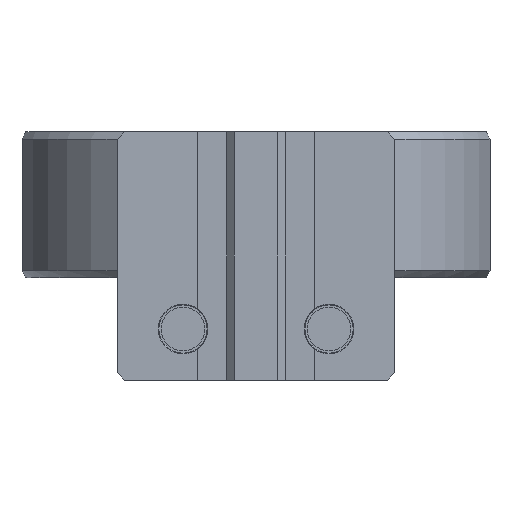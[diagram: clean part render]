
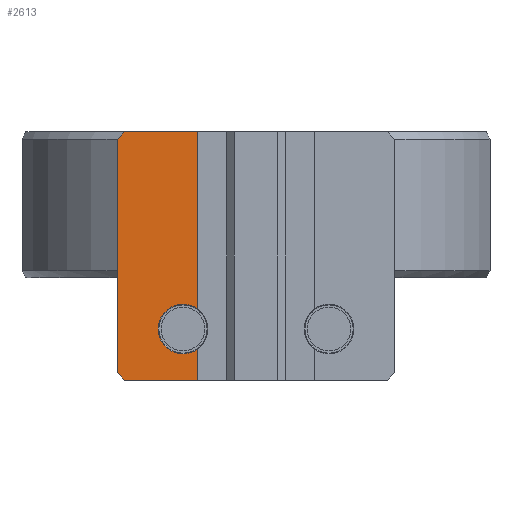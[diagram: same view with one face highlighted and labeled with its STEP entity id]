
A CAD part, front view. The second image highlights one B-rep face of the part: STEP entity #2613.
In plain terms, the highlighted planar face has unit normal (0, -1, 0).
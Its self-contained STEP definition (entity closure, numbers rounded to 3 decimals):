
#11 = DIRECTION ( 'NONE',  ( -1., 0., 0. ) ) ;
#30 = CARTESIAN_POINT ( 'NONE',  ( -5., -17.5, -6.7 ) ) ;
#158 = DIRECTION ( 'NONE',  ( 0., 0., -1. ) ) ;
#354 = FACE_OUTER_BOUND ( 'NONE', #2792, .T. ) ;
#405 = DIRECTION ( 'NONE',  ( -1., 0., 0. ) ) ;
#456 = ORIENTED_EDGE ( 'NONE', *, *, #4136, .F. ) ;
#808 = VERTEX_POINT ( 'NONE', #2220 ) ;
#861 = CARTESIAN_POINT ( 'NONE',  ( 0., -17.5, -8.5 ) ) ;
#1128 = AXIS2_PLACEMENT_3D ( 'NONE', #6527, #7452, #5771 ) ;
#1205 = DIRECTION ( 'NONE',  ( 0., 1., 0. ) ) ;
#1439 = ORIENTED_EDGE ( 'NONE', *, *, #4669, .T. ) ;
#1473 = DIRECTION ( 'NONE',  ( -1., 0., 0. ) ) ;
#1667 = VECTOR ( 'NONE', #158, 1000. ) ;
#1883 = DIRECTION ( 'NONE',  ( 0., 0., -1. ) ) ;
#2220 = CARTESIAN_POINT ( 'NONE',  ( -4., -17.5, -8.5 ) ) ;
#2304 = VERTEX_POINT ( 'NONE', #30 ) ;
#2331 = CARTESIAN_POINT ( 'NONE',  ( -4., -17.5, 8.5 ) ) ;
#2613 = ADVANCED_FACE ( 'NONE', ( #354 ), #3481, .F. ) ;
#2694 = AXIS2_PLACEMENT_3D ( 'NONE', #4123, #7430, #11 ) ;
#2792 = EDGE_LOOP ( 'NONE', ( #4977, #2820, #7008, #8154, #3826, #1439, #3004, #456, #10182, #5568 ) ) ;
#2809 = EDGE_CURVE ( 'NONE', #3304, #808, #9759, .T. ) ;
#2820 = ORIENTED_EDGE ( 'NONE', *, *, #7595, .T. ) ;
#2839 = CARTESIAN_POINT ( 'NONE',  ( -9., -17.5, -8.5 ) ) ;
#2854 = CIRCLE ( 'NONE', #1128, 1.7 ) ;
#3004 = ORIENTED_EDGE ( 'NONE', *, *, #5948, .T. ) ;
#3056 = AXIS2_PLACEMENT_3D ( 'NONE', #9822, #8917, #1473 ) ;
#3304 = VERTEX_POINT ( 'NONE', #5055 ) ;
#3447 = VECTOR ( 'NONE', #7581, 1000. ) ;
#3481 = PLANE ( 'NONE',  #8565 ) ;
#3719 = VECTOR ( 'NONE', #1883, 1000. ) ;
#3826 = ORIENTED_EDGE ( 'NONE', *, *, #10526, .T. ) ;
#4123 = CARTESIAN_POINT ( 'NONE',  ( -5., -17.5, -5. ) ) ;
#4136 = EDGE_CURVE ( 'NONE', #8057, #9841, #10226, .T. ) ;
#4223 = CARTESIAN_POINT ( 'NONE',  ( -4., -17.5, 8.5 ) ) ;
#4232 = CARTESIAN_POINT ( 'NONE',  ( -4., -17.5, -3.625 ) ) ;
#4475 = DIRECTION ( 'NONE',  ( 0.707, 0., -0.707 ) ) ;
#4669 = EDGE_CURVE ( 'NONE', #2304, #5533, #5294, .T. ) ;
#4738 = CARTESIAN_POINT ( 'NONE',  ( -9., -17.5, -8.5 ) ) ;
#4928 = VERTEX_POINT ( 'NONE', #5844 ) ;
#4961 = EDGE_CURVE ( 'NONE', #7763, #808, #7417, .T. ) ;
#4977 = ORIENTED_EDGE ( 'NONE', *, *, #8940, .T. ) ;
#5055 = CARTESIAN_POINT ( 'NONE',  ( -4., -17.5, -6.375 ) ) ;
#5139 = VECTOR ( 'NONE', #7741, 1000. ) ;
#5214 = CARTESIAN_POINT ( 'NONE',  ( -9.5, -17.5, -8. ) ) ;
#5294 = CIRCLE ( 'NONE', #2694, 1.7 ) ;
#5533 = VERTEX_POINT ( 'NONE', #9422 ) ;
#5568 = ORIENTED_EDGE ( 'NONE', *, *, #5720, .T. ) ;
#5720 = EDGE_CURVE ( 'NONE', #4928, #10004, #9885, .T. ) ;
#5771 = DIRECTION ( 'NONE',  ( -1., 0., 0. ) ) ;
#5844 = CARTESIAN_POINT ( 'NONE',  ( -9., -17.5, 8.5 ) ) ;
#5948 = EDGE_CURVE ( 'NONE', #5533, #9841, #7746, .T. ) ;
#6011 = LINE ( 'NONE', #6941, #3447 ) ;
#6397 = EDGE_CURVE ( 'NONE', #4928, #8057, #7034, .T. ) ;
#6527 = CARTESIAN_POINT ( 'NONE',  ( -5., -17.5, -5. ) ) ;
#6581 = DIRECTION ( 'NONE',  ( -0.707, 0., -0.707 ) ) ;
#6899 = VECTOR ( 'NONE', #4475, 1000. ) ;
#6915 = LINE ( 'NONE', #2839, #6899 ) ;
#6941 = CARTESIAN_POINT ( 'NONE',  ( -9.5, -17.5, 8.5 ) ) ;
#7008 = ORIENTED_EDGE ( 'NONE', *, *, #4961, .T. ) ;
#7034 = LINE ( 'NONE', #8722, #5139 ) ;
#7041 = VERTEX_POINT ( 'NONE', #5214 ) ;
#7394 = CARTESIAN_POINT ( 'NONE',  ( -9.5, -17.5, 8. ) ) ;
#7417 = LINE ( 'NONE', #861, #8609 ) ;
#7430 = DIRECTION ( 'NONE',  ( 0., 1., 0. ) ) ;
#7452 = DIRECTION ( 'NONE',  ( 0., 1., 0. ) ) ;
#7470 = DIRECTION ( 'NONE',  ( 1., 0., 0. ) ) ;
#7554 = VECTOR ( 'NONE', #6581, 1000. ) ;
#7581 = DIRECTION ( 'NONE',  ( 0., 0., -1. ) ) ;
#7595 = EDGE_CURVE ( 'NONE', #7041, #7763, #6915, .T. ) ;
#7741 = DIRECTION ( 'NONE',  ( 1., 0., 0. ) ) ;
#7746 = CIRCLE ( 'NONE', #3056, 1.7 ) ;
#7763 = VERTEX_POINT ( 'NONE', #4738 ) ;
#8057 = VERTEX_POINT ( 'NONE', #2331 ) ;
#8154 = ORIENTED_EDGE ( 'NONE', *, *, #2809, .F. ) ;
#8565 = AXIS2_PLACEMENT_3D ( 'NONE', #10145, #1205, #405 ) ;
#8609 = VECTOR ( 'NONE', #7470, 1000. ) ;
#8722 = CARTESIAN_POINT ( 'NONE',  ( 0., -17.5, 8.5 ) ) ;
#8793 = CARTESIAN_POINT ( 'NONE',  ( -9.5, -17.5, 8. ) ) ;
#8917 = DIRECTION ( 'NONE',  ( 0., 1., 0. ) ) ;
#8940 = EDGE_CURVE ( 'NONE', #10004, #7041, #6011, .T. ) ;
#9422 = CARTESIAN_POINT ( 'NONE',  ( -5., -17.5, -3.3 ) ) ;
#9759 = LINE ( 'NONE', #9867, #3719 ) ;
#9822 = CARTESIAN_POINT ( 'NONE',  ( -5., -17.5, -5. ) ) ;
#9841 = VERTEX_POINT ( 'NONE', #4232 ) ;
#9867 = CARTESIAN_POINT ( 'NONE',  ( -4., -17.5, 8.5 ) ) ;
#9885 = LINE ( 'NONE', #7394, #7554 ) ;
#10004 = VERTEX_POINT ( 'NONE', #8793 ) ;
#10145 = CARTESIAN_POINT ( 'NONE',  ( 0., -17.5, 8.5 ) ) ;
#10182 = ORIENTED_EDGE ( 'NONE', *, *, #6397, .F. ) ;
#10226 = LINE ( 'NONE', #4223, #1667 ) ;
#10526 = EDGE_CURVE ( 'NONE', #3304, #2304, #2854, .T. ) ;
